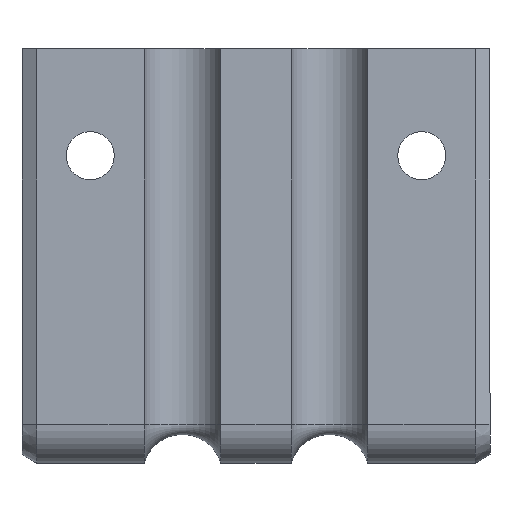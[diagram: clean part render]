
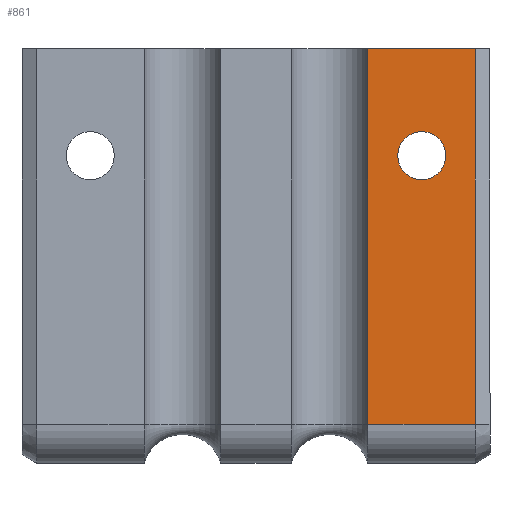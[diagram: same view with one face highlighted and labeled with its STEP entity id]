
A CAD part, front view. The second image highlights one B-rep face of the part: STEP entity #861.
In plain terms, the highlighted planar face has unit normal (0, -1, 0).
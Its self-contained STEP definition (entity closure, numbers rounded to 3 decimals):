
#28=FACE_BOUND('',#132,.T.);
#43=PLANE('',#929);
#75=FACE_OUTER_BOUND('',#131,.T.);
#131=EDGE_LOOP('',(#642,#643,#644,#645));
#132=EDGE_LOOP('',(#646));
#208=LINE('',#1362,#292);
#210=LINE('',#1366,#294);
#211=LINE('',#1368,#295);
#212=LINE('',#1369,#296);
#292=VECTOR('',#1084,1.);
#294=VECTOR('',#1088,1.);
#295=VECTOR('',#1089,1.);
#296=VECTOR('',#1090,1.);
#347=CIRCLE('',#907,9.);
#387=VERTEX_POINT('',#1280);
#414=VERTEX_POINT('',#1359);
#415=VERTEX_POINT('',#1361);
#416=VERTEX_POINT('',#1365);
#417=VERTEX_POINT('',#1367);
#461=EDGE_CURVE('',#387,#387,#347,.T.);
#500=EDGE_CURVE('',#415,#414,#208,.T.);
#502=EDGE_CURVE('',#414,#416,#210,.T.);
#503=EDGE_CURVE('',#417,#416,#211,.T.);
#504=EDGE_CURVE('',#415,#417,#212,.T.);
#642=ORIENTED_EDGE('',*,*,#502,.T.);
#643=ORIENTED_EDGE('',*,*,#503,.F.);
#644=ORIENTED_EDGE('',*,*,#504,.F.);
#645=ORIENTED_EDGE('',*,*,#500,.T.);
#646=ORIENTED_EDGE('',*,*,#461,.T.);
#861=ADVANCED_FACE('',(#75,#28),#43,.T.);
#907=AXIS2_PLACEMENT_3D('',#1282,#1010,#1011);
#929=AXIS2_PLACEMENT_3D('',#1364,#1086,#1087);
#1010=DIRECTION('center_axis',(0.,1.,0.));
#1011=DIRECTION('ref_axis',(1.,0.,0.));
#1084=DIRECTION('',(0.,0.,1.));
#1086=DIRECTION('center_axis',(0.,-1.,0.));
#1087=DIRECTION('ref_axis',(0.,0.,-1.));
#1088=DIRECTION('',(-1.,0.,0.));
#1089=DIRECTION('',(0.,0.,1.));
#1090=DIRECTION('',(-1.,0.,0.));
#1280=CARTESIAN_POINT('',(53.,0.,115.));
#1282=CARTESIAN_POINT('Origin',(62.,0.,
115.));
#1359=CARTESIAN_POINT('',(81.957,0.,155.));
#1361=CARTESIAN_POINT('',(81.957,0.,14.5));
#1362=CARTESIAN_POINT('',(81.957,0.,14.5));
#1364=CARTESIAN_POINT('Origin',(81.957,0.,14.5));
#1365=CARTESIAN_POINT('',(41.848,0.,155.));
#1366=CARTESIAN_POINT('',(41.848,0.,155.));
#1367=CARTESIAN_POINT('',(41.848,0.,14.5));
#1368=CARTESIAN_POINT('',(41.848,0.,14.5));
#1369=CARTESIAN_POINT('',(41.848,0.,14.5));
